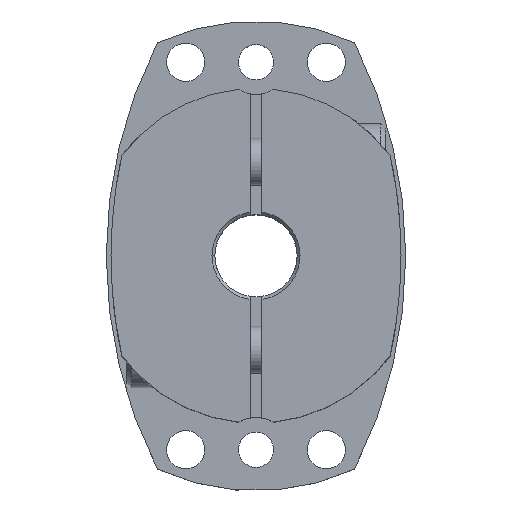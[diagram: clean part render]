
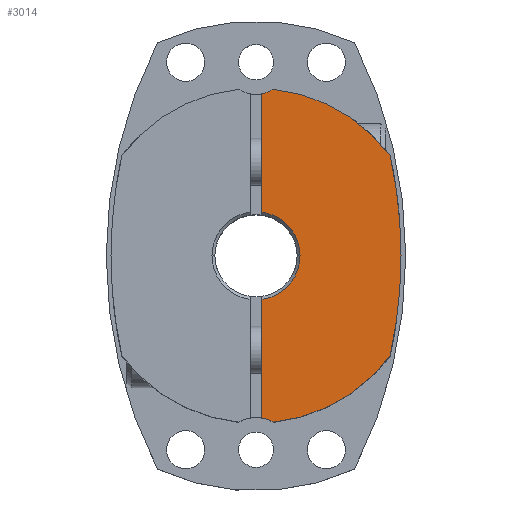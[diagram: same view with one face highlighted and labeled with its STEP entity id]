
A CAD part, top view. The second image highlights one B-rep face of the part: STEP entity #3014.
In plain terms, the highlighted planar face has unit normal (0, 0, 1).
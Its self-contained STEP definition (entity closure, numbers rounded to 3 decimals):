
#373=CARTESIAN_POINT('',(7.5,0.,25.5));
#374=VERTEX_POINT('',#373);
#381=CARTESIAN_POINT('',(1.,7.433,25.5));
#382=VERTEX_POINT('',#381);
#383=CARTESIAN_POINT('',(0.,0.,25.5));
#384=DIRECTION('',(0.0,0.0,1.0));
#385=DIRECTION('',(-1.0,0.0,0.0));
#386=AXIS2_PLACEMENT_3D('',#383,#384,#385);
#387=CIRCLE('',#386,7.5);
#388=EDGE_CURVE('',#374,#382,#387,.T.);
#537=CARTESIAN_POINT('',(24.7,0.,25.5));
#538=VERTEX_POINT('',#537);
#658=CARTESIAN_POINT('',(22.845,17.039,25.5));
#659=VERTEX_POINT('',#658);
#666=CARTESIAN_POINT('',(-54.5,0.,25.5));
#667=DIRECTION('',(0.0,0.0,-1.0));
#668=DIRECTION('',(1.0,0.0,0.0));
#669=AXIS2_PLACEMENT_3D('',#666,#667,#668);
#670=CIRCLE('',#669,79.2);
#671=EDGE_CURVE('',#659,#538,#670,.T.);
#2331=CARTESIAN_POINT('',(2.935,28.348,25.5));
#2332=VERTEX_POINT('',#2331);
#2339=CARTESIAN_POINT('',(0.,0.,25.5));
#2340=DIRECTION('',(0.0,0.0,-1.0));
#2341=DIRECTION('',(1.0,0.0,0.0));
#2342=AXIS2_PLACEMENT_3D('',#2339,#2340,#2341);
#2343=CIRCLE('',#2342,28.5);
#2344=EDGE_CURVE('',#2332,#659,#2343,.T.);
#2555=CARTESIAN_POINT('',(22.845,-17.039,25.5));
#2556=VERTEX_POINT('',#2555);
#2557=CARTESIAN_POINT('',(-54.5,0.,25.5));
#2558=DIRECTION('',(0.0,0.0,-1.0));
#2559=DIRECTION('',(1.0,0.0,0.0));
#2560=AXIS2_PLACEMENT_3D('',#2557,#2558,#2559);
#2561=CIRCLE('',#2560,79.2);
#2562=EDGE_CURVE('',#538,#2556,#2561,.T.);
#2679=CARTESIAN_POINT('',(1.,-27.592,25.5));
#2680=VERTEX_POINT('',#2679);
#2696=CARTESIAN_POINT('',(2.935,-28.348,25.5));
#2697=VERTEX_POINT('',#2696);
#2704=CARTESIAN_POINT('',(0.,-33.,25.5));
#2705=DIRECTION('',(0.0,0.0,-1.0));
#2706=DIRECTION('',(1.0,0.0,0.0));
#2707=AXIS2_PLACEMENT_3D('',#2704,#2705,#2706);
#2708=CIRCLE('',#2707,5.5);
#2709=EDGE_CURVE('',#2680,#2697,#2708,.T.);
#2888=CARTESIAN_POINT('',(1.,27.592,25.5));
#2889=VERTEX_POINT('',#2888);
#2896=CARTESIAN_POINT('',(0.,33.,25.5));
#2897=DIRECTION('',(0.0,0.0,-1.0));
#2898=DIRECTION('',(1.0,0.0,0.0));
#2899=AXIS2_PLACEMENT_3D('',#2896,#2897,#2898);
#2900=CIRCLE('',#2899,5.5);
#2901=EDGE_CURVE('',#2332,#2889,#2900,.T.);
#2936=CARTESIAN_POINT('',(1.,-7.433,25.5));
#2937=VERTEX_POINT('',#2936);
#2938=CARTESIAN_POINT('',(1.,-7.433,25.5));
#2939=DIRECTION('',(0.0,-1.0,0.0));
#2940=VECTOR('',#2939,20.159);
#2941=LINE('',#2938,#2940);
#2942=EDGE_CURVE('',#2937,#2680,#2941,.T.);
#2980=CARTESIAN_POINT('',(0.,0.,25.5));
#2981=DIRECTION('',(0.0,0.0,1.0));
#2982=DIRECTION('',(1.0,0.0,0.0));
#2983=AXIS2_PLACEMENT_3D('',#2980,#2981,#2982);
#2984=PLANE('',#2983);
#2985=ORIENTED_EDGE('',*,*,#2709,.T.);
#2986=CARTESIAN_POINT('',(0.,0.,25.5));
#2987=DIRECTION('',(0.0,0.0,-1.0));
#2988=DIRECTION('',(1.0,0.0,0.0));
#2989=AXIS2_PLACEMENT_3D('',#2986,#2987,#2988);
#2990=CIRCLE('',#2989,28.5);
#2991=EDGE_CURVE('',#2556,#2697,#2990,.T.);
#2992=ORIENTED_EDGE('',*,*,#2991,.F.);
#2993=ORIENTED_EDGE('',*,*,#2562,.F.);
#2994=ORIENTED_EDGE('',*,*,#671,.F.);
#2995=ORIENTED_EDGE('',*,*,#2344,.F.);
#2996=ORIENTED_EDGE('',*,*,#2901,.T.);
#2997=CARTESIAN_POINT('',(1.,27.592,25.5));
#2998=DIRECTION('',(0.0,-1.0,0.0));
#2999=VECTOR('',#2998,20.159);
#3000=LINE('',#2997,#2999);
#3001=EDGE_CURVE('',#2889,#382,#3000,.T.);
#3002=ORIENTED_EDGE('',*,*,#3001,.T.);
#3003=ORIENTED_EDGE('',*,*,#388,.F.);
#3004=CARTESIAN_POINT('',(0.,0.,25.5));
#3005=DIRECTION('',(0.0,0.0,1.0));
#3006=DIRECTION('',(-1.0,0.0,0.0));
#3007=AXIS2_PLACEMENT_3D('',#3004,#3005,#3006);
#3008=CIRCLE('',#3007,7.5);
#3009=EDGE_CURVE('',#2937,#374,#3008,.T.);
#3010=ORIENTED_EDGE('',*,*,#3009,.F.);
#3011=ORIENTED_EDGE('',*,*,#2942,.T.);
#3012=EDGE_LOOP('',(#2985,#2992,#2993,#2994,#2995,#2996,#3002,#3003,#3010,#3011));
#3013=FACE_OUTER_BOUND('',#3012,.T.);
#3014=ADVANCED_FACE('',(#3013),#2984,.T.);
